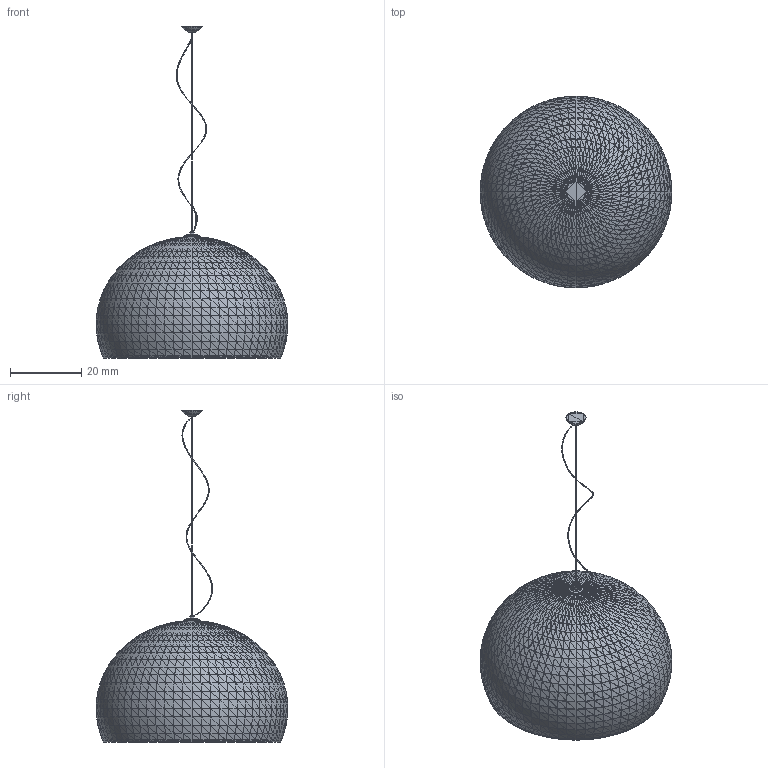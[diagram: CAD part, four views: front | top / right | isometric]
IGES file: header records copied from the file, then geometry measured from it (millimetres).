
Global section: file name: E:\Modelli 3D Kartell_3dd\Prodotti Revisione 1_3dd\ex novo_3dd\9030\Fly_3d_Ferruccio Laviani_Kartell.IGS; native system: Rhinoceros ( Mar 10 2014 ); preprocessor: Trout Lake IGES 012 Mar 10 2014; date: 180216.142311; units: millimetre
Bounding box: 53.78 x 53.78 x 93.09 mm (x, y, z)
Surface area: 12679 mm2 (no closed solid volume)
Topology: 0 solids, 0 shells, 11918 faces, 35754 edges, 35754 vertices
Faces by surface type: bspline 11918
